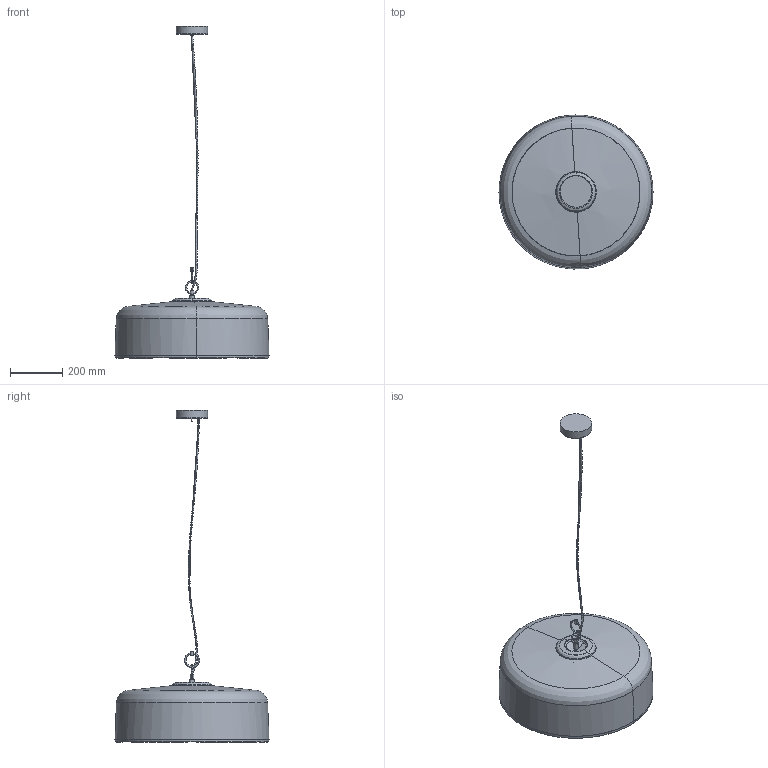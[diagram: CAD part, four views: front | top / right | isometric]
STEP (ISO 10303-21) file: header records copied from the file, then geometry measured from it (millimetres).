
FILE_DESCRIPTION(/* description */ (''),/* implementation_level */ '2;1');
FILE_NAME(/* name */ 'Model 2050',/* time_stamp */ '2023-02-21T15:30:41+01:00',/* author */ (''),/* organization */ (''),/* preprocessor_version */ 'ST-DEVELOPER v16.5',/* originating_system */ '',/* authorisation */ '');
FILE_SCHEMA (('AUTOMOTIVE_DESIGN'));
Length unit declared in the file: millimetre
Products named in the file (1): Document
Bounding box: 589.28 x 589.16 x 1269.82 mm (x, y, z)
Volume: 4112736.1 mm3; surface area: 1831163.5 mm2
Topology: 12 solids, 12 shells, 186 faces, 370 edges, 215 vertices
Faces by surface type: bspline 136, plane 30, cylinder 20
Full cylindrical faces by diameter (mm): 1.4 x1, 4.914 x1, 10 x2, 12 x1, 13 x1, 15 x1, 19 x1, 120 x1, 129.5 x1
Entity records: 12943 total; most frequent: CARTESIAN_POINT 10646, ORIENTED_EDGE 740, EDGE_CURVE 370, VERTEX_POINT 215, EDGE_LOOP 203, ADVANCED_FACE 186, FACE_OUTER_BOUND 186, B_SPLINE_CURVE_WITH_KNOTS 75
